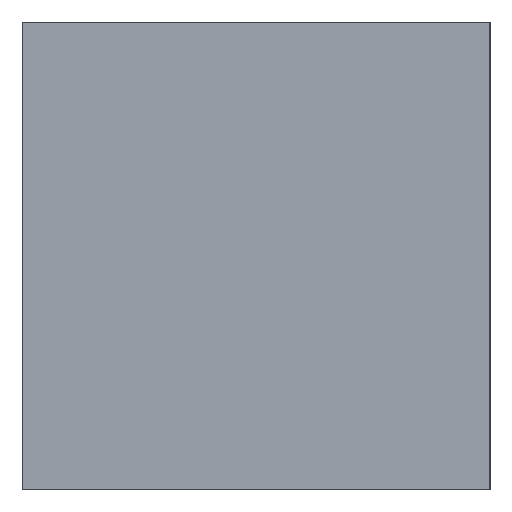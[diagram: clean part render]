
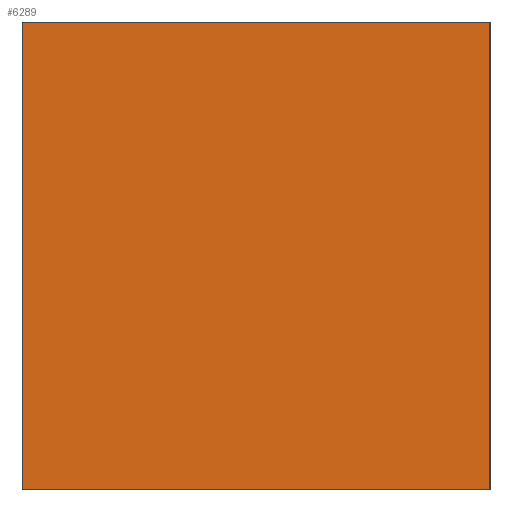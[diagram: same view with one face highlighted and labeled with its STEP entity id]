
A CAD part, left-side view. The second image highlights one B-rep face of the part: STEP entity #6289.
In plain terms, the highlighted planar face has unit normal (-1, 0, 0).
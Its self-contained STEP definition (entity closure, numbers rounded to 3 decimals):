
#204 = CARTESIAN_POINT ( 'NONE',  ( 0., -31., 31. ) ) ;
#1173 = ORIENTED_EDGE ( 'NONE', *, *, #1930, .F. ) ;
#1796 = DIRECTION ( 'NONE',  ( 0., 0., -1. ) ) ;
#1893 = EDGE_CURVE ( 'NONE', #17435, #19613, #7365, .T. ) ;
#1930 = EDGE_CURVE ( 'NONE', #19613, #13638, #3107, .T. ) ;
#2362 = CARTESIAN_POINT ( 'NONE',  ( 0., -31., 31. ) ) ;
#2972 = EDGE_CURVE ( 'NONE', #13638, #17772, #4687, .T. ) ;
#3107 = LINE ( 'NONE', #2362, #6858 ) ;
#3261 = CARTESIAN_POINT ( 'NONE',  ( 0., -31., 31. ) ) ;
#4642 = ORIENTED_EDGE ( 'NONE', *, *, #1893, .F. ) ;
#4687 = LINE ( 'NONE', #204, #8446 ) ;
#4771 = FACE_OUTER_BOUND ( 'NONE', #9432, .T. ) ;
#6289 = ADVANCED_FACE ( 'NONE', ( #4771 ), #14633, .T. ) ;
#6858 = VECTOR ( 'NONE', #7178, 1000. ) ;
#7178 = DIRECTION ( 'NONE',  ( 0., -1., 0. ) ) ;
#7365 = LINE ( 'NONE', #18403, #11606 ) ;
#8353 = DIRECTION ( 'NONE',  ( -1., 0., 0. ) ) ;
#8446 = VECTOR ( 'NONE', #1796, 1000. ) ;
#8803 = DIRECTION ( 'NONE',  ( 0., 0., 1. ) ) ;
#9432 = EDGE_LOOP ( 'NONE', ( #19411, #13362, #1173, #4642 ) ) ;
#9972 = DIRECTION ( 'NONE',  ( 0., 0., 1. ) ) ;
#11606 = VECTOR ( 'NONE', #8803, 1000. ) ;
#11944 = DIRECTION ( 'NONE',  ( 0., 1., 0. ) ) ;
#12117 = CARTESIAN_POINT ( 'NONE',  ( 0., -31., -31. ) ) ;
#13362 = ORIENTED_EDGE ( 'NONE', *, *, #2972, .F. ) ;
#13638 = VERTEX_POINT ( 'NONE', #3261 ) ;
#14393 = CARTESIAN_POINT ( 'NONE',  ( 0., 31., -31. ) ) ;
#14434 = VECTOR ( 'NONE', #11944, 1000. ) ;
#14633 = PLANE ( 'NONE',  #16416 ) ;
#15063 = EDGE_CURVE ( 'NONE', #17772, #17435, #16947, .T. ) ;
#16416 = AXIS2_PLACEMENT_3D ( 'NONE', #17959, #8353, #9972 ) ;
#16947 = LINE ( 'NONE', #18127, #14434 ) ;
#17435 = VERTEX_POINT ( 'NONE', #14393 ) ;
#17772 = VERTEX_POINT ( 'NONE', #12117 ) ;
#17959 = CARTESIAN_POINT ( 'NONE',  ( 0., 31., -31. ) ) ;
#18127 = CARTESIAN_POINT ( 'NONE',  ( 0., -31., -31. ) ) ;
#18403 = CARTESIAN_POINT ( 'NONE',  ( 0., 31., 31. ) ) ;
#19411 = ORIENTED_EDGE ( 'NONE', *, *, #15063, .F. ) ;
#19613 = VERTEX_POINT ( 'NONE', #20765 ) ;
#20765 = CARTESIAN_POINT ( 'NONE',  ( 0., 31., 31. ) ) ;
